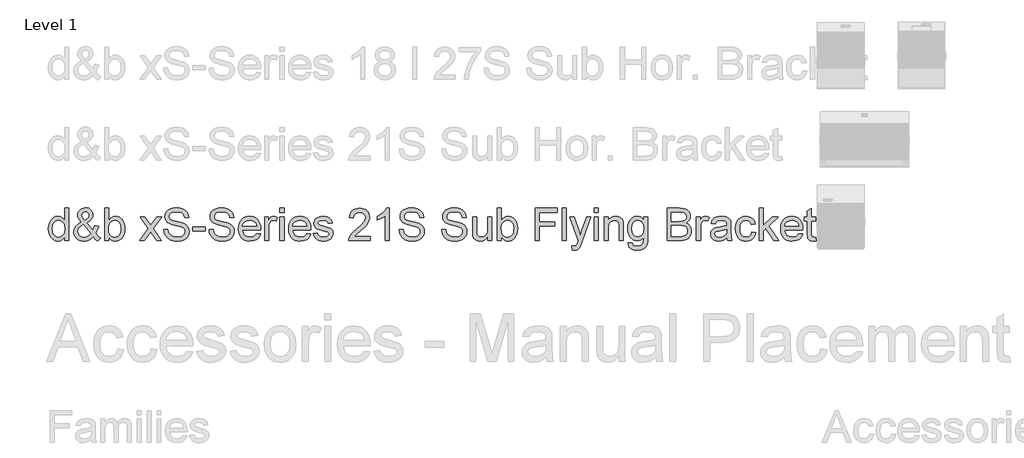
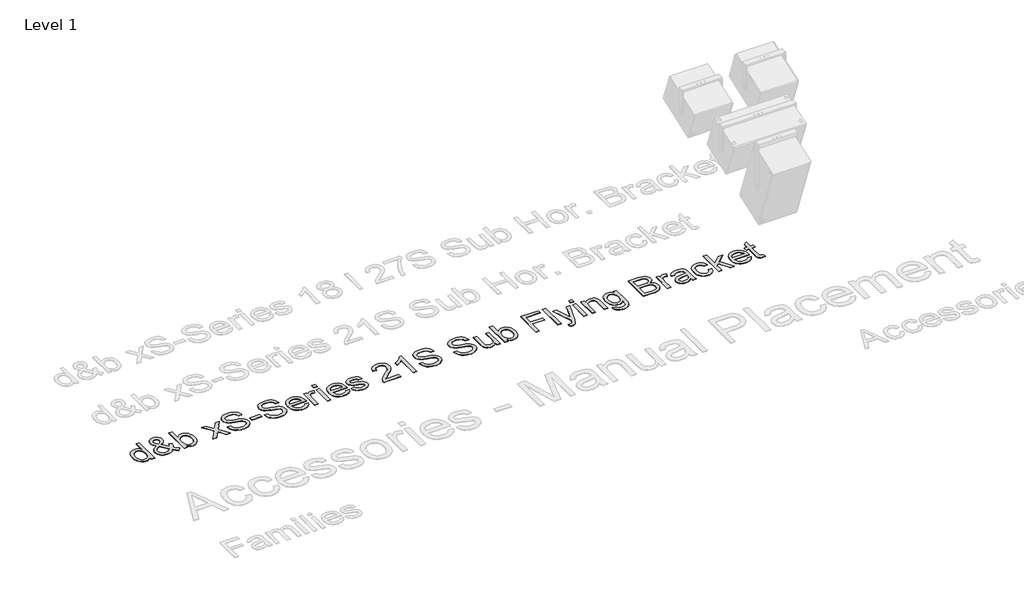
# One storey, part 13 of 55: 1 proxy.
"""IFC4 building model written with IfcOpenShell, lengths in millimetres."""

from ifc_helpers import new_model, si_unit, origin, origin_with_axes, place, context, project, spatial, polyline, outline, extrude, element, save

model = new_model("IFC4")

# Units and contexts
model_context = context("Model", 3, world=origin())
ifc_project = project(units=[si_unit("LENGTHUNIT", "METRE", prefix="MILLI")], contexts=[model_context])

# Site, building, storey
site = spatial("IfcSite", under=ifc_project)
building = spatial("IfcBuilding", under=site)
storey = spatial("IfcBuildingStorey", under=building, Name="Level 1", Elevation=0.0)

# Proxy
placement = place(None, origin())
element("IfcBuildingElementProxy", 1, Name="400mm Arial", ObjectType="400mm Arial", at=placement, inside=storey, context=model_context, shape_type="SweptSolid", body=[
    extrude(outline(polyline([(-20879.8211974, -23648.6945164), (-20879.8211974, -23601.3113154), (-20894.8491769, -23624.7883181), (-20913.0532043, -23641.5576057), (-20934.4332796, -23651.6191783), (-20958.9894028, -23654.9730358), (-20991.4611202, -23650.1169935), (-21021.1859854, -23635.5488665), (-21046.3491139, -23612.2864616), (-21065.1356211, -23581.3475858), (-21076.8342686, -23543.9830379), (-21080.7338177, -23501.4436165), (-21077.1408369, -23459.4314926), (-21066.3618945, -23421.4905962), (-21048.4092531, -23389.7791682), (-21023.2951755, -23366.4554497), (-20992.9203855, -23352.1080519), (-20959.1856065, -23347.325586), (-20934.6110892, -23350.7468885), (-20912.8815261, -23361.0107962), (-20894.4629008, -23376.7438829), (-20879.8211974, -23396.5727224), (-20879.8211974, -23246.8692758), (-20829.5930424, -23246.8692758), (-20829.5930424, -23648.6945164), (-20879.8211974, -23648.6945164)]), holes=[polyline([(-21030.5056627, -23501.2474128), (-21029.089317, -23525.6042665), (-21024.8402799, -23546.6808392), (-21017.7585515, -23564.4771307), (-21007.8441318, -23578.9931411), (-20983.1469871, -23598.3069458), (-20969.2717046, -23603.135397), (-20954.3786151, -23604.7448807), (-20939.415015, -23603.2089734), (-20925.6225058, -23598.6012514), (-20901.5507606, -23580.1703635), (-20892.0440767, -23566.2613584), (-20885.2535882, -23549.1088603), (-20879.8211974, -23505.0733855), (-20885.3516901, -23456.9298951), (-20892.2648059, -23438.3947739), (-20901.9431681, -23423.5507354), (-20913.6448812, -23412.1770504), (-20926.6280499, -23404.0529896), (-20940.8926743, -23399.1785532), (-20956.4387543, -23397.5537411), (-20971.6261493, -23399.1141738), (-20985.5014319, -23403.7954722), (-20998.064602, -23411.5976362), (-21009.3156597, -23422.5206658), (-21018.586286, -23436.8036843), (-21025.2081619, -23454.6858149), (-21030.5056627, -23501.2474128)])]), origin_with_axes(), (0.0, 0.0, 1.0), 5.0),
    extrude(outline(polyline([(-20523.809528, -23599.0549725), (-20549.3405384, -23623.5191252), (-20577.0788409, -23640.99352), (-20607.0734862, -23651.4781569), (-20639.3735254, -23654.9730358), (-20668.6814577, -23652.3855991), (-20694.8010793, -23644.623289), (-20717.7323904, -23631.6861055), (-20737.4753908, -23613.5740486), (-20750.308341, -23596.2038871), (-20759.4747341, -23577.8404442), (-20764.9745699, -23558.4837198), (-20766.8078485, -23538.1337141), (-20760.9094739, -23502.9396699), (-20743.2143499, -23471.3263438), (-20713.796053, -23443.3182613), (-20672.7281596, -23418.9399477), (-20694.6416638, -23390.5885086), (-20707.7995765, -23368.1231814), (-20714.3846642, -23348.9442668), (-20716.5796934, -23330.4520651), (-20714.8506481, -23312.8979626), (-20709.6635119, -23296.5333452), (-20701.018285, -23281.3582129), (-20688.9149674, -23267.3725657), (-20674.1935562, -23255.6555241), (-20657.6940487, -23247.2862088), (-20639.4164449, -23242.2646195), (-20619.3607448, -23240.5907564), (-20600.212487, -23242.1910431), (-20582.8913764, -23246.9919032), (-20567.397413, -23254.9933366), (-20553.7305969, -23266.1953433), (-20542.5715097, -23279.6414302), (-20534.6007332, -23294.3751041), (-20529.8182672, -23310.396365), (-20528.2241119, -23327.7052129), (-20532.9452642, -23355.68877), (-20547.108721, -23381.563137), (-20570.7144823, -23405.3283139), (-20603.7625482, -23426.9843007), (-20531.069066, -23517.5323224), (-20518.6837055, -23491.6579554), (-20509.3885538, -23461.9085647), (-20459.1603987, -23472.7978718), (-20474.6114425, -23519.3226815), (-20494.6732739, -23555.4977443), (-20466.1256311, -23588.8033276), (-20434.0463211, -23616.3209009), (-20471.7174374, -23654.9730358), (-20497.3465498, -23631.52669), (-20523.809528, -23599.0549725)]), holes=[polyline([(-20557.4584678, -23562.8553842), (-20647.1235727, -23450.9211558), (-20681.3733865, -23472.7733463), (-20702.305872, -23493.0068561), (-20713.0112381, -23512.3329235), (-20716.5796934, -23531.4627873), (-20711.6991256, -23555.1543878), (-20697.0574222, -23579.7289051), (-20686.2784798, -23590.6733944), (-20673.4639236, -23598.4908868), (-20658.6137537, -23603.1813823), (-20641.7279702, -23604.7448807), (-20619.0051256, -23601.8263502), (-20595.5710425, -23593.0707588), (-20574.1480476, -23579.6798541), (-20557.4584678, -23562.8553842)]), polyline([(-20629.1709314, -23395.2973981), (-20602.9041569, -23378.6323438), (-20587.8700461, -23364.1500559), (-20580.8067117, -23350.0601755), (-20578.452267, -23334.5723435), (-20581.5547385, -23317.0243723), (-20590.862153, -23303.0325938), (-20604.829406, -23293.8723321), (-20621.9113933, -23290.8189115), (-20639.3612626, -23293.8478066), (-20653.6473468, -23302.9344919), (-20663.1754905, -23316.3867102), (-20666.3515384, -23332.5122043), (-20662.0350563, -23350.9063041), (-20648.9875082, -23371.360543), (-20629.1709314, -23395.2973981)])]), origin_with_axes(), (0.0, 0.0, 1.0), 5.0),
    extrude(outline(polyline([(-20333.590011, -23648.6945164), (-20383.8181661, -23648.6945164), (-20383.8181661, -23246.8692758), (-20333.590011, -23246.8692758), (-20333.590011, -23395.8860093), (-20317.0721094, -23374.6408241), (-20298.4204923, -23359.4656918), (-20277.6351595, -23350.3606124), (-20254.7161112, -23347.325586), (-20228.8417442, -23350.0601755), (-20204.3898543, -23358.263944), (-20182.758393, -23371.4218567), (-20165.3453119, -23389.0188788), (-20151.6968898, -23410.883332), (-20141.3594058, -23436.8435381), (-20134.8478945, -23465.8203766), (-20132.6773907, -23496.734727), (-20134.9245365, -23532.4070178), (-20141.6659741, -23563.7873519), (-20152.9017034, -23590.8757295), (-20168.6317244, -23613.6721505), (-20187.5132678, -23631.7412878), (-20208.2035643, -23644.6478145), (-20230.702614, -23652.3917305), (-20255.0104168, -23654.9730358), (-20278.6836232, -23651.6437038), (-20299.671291, -23641.6557076), (-20317.9734203, -23625.0090473), (-20333.590011, -23601.7037229), (-20333.590011, -23648.6945164)]), holes=[polyline([(-20333.590011, -23499.0891717), (-20330.1564457, -23540.9786682), (-20319.8557498, -23569.3301073), (-20307.6849872, -23584.8240707), (-20293.5399244, -23595.8911874), (-20277.4205617, -23602.5314574), (-20259.3268989, -23604.7448807), (-20244.3050508, -23603.1139372), (-20230.3377977, -23598.2211067), (-20217.4251396, -23590.0663891), (-20205.5670767, -23578.6497845), (-20195.6526569, -23564.0019498), (-20188.5709285, -23546.1535416), (-20184.3218914, -23525.1045601), (-20182.9055458, -23500.8550053), (-20188.3379366, -23454.8942814), (-20195.1284251, -23437.1010555), (-20204.6351089, -23422.7659205), (-20216.0670419, -23411.735592), (-20228.6332778, -23403.8567859), (-20242.3338164, -23399.1295023), (-20257.1686579, -23397.5537411), (-20272.190506, -23399.1846846), (-20286.1577591, -23404.0775151), (-20299.0704171, -23412.2322327), (-20310.9284801, -23423.6488372), (-20320.8428999, -23438.1495192), (-20327.9246283, -23455.556469), (-20332.1736653, -23475.8696865), (-20333.590011, -23499.0891717)])]), origin_with_axes(), (0.0, 0.0, 1.0), 5.0),
    extrude(outline(polyline([(-19950.6003285, -23648.6945164), (-19843.2768878, -23500.2663941), (-19944.3218092, -23353.6041054), (-19884.0872638, -23353.6041054), (-19835.3306367, -23424.3355503), (-19812.4729021, -23457.5920827), (-19792.6563253, -23430.3197641), (-19737.1306695, -23353.6041054), (-19676.6999204, -23353.6041054), (-19782.8461387, -23500.364496), (-19680.623995, -23648.6945164), (-19740.9566422, -23648.6945164), (-19802.5646137, -23559.4218189), (-19813.7482263, -23543.0388074), (-19890.1695795, -23648.6945164), (-19950.6003285, -23648.6945164)])), origin_with_axes(), (0.0, 0.0, 1.0), 5.0),
    extrude(outline(polyline([(-19649.2313981, -23510.56709), (-19599.003243, -23510.56709), (-19593.2397584, -23538.4402825), (-19582.8164352, -23560.844296), (-19566.556051, -23578.6252591), (-19543.2813835, -23592.6293004), (-19514.8318425, -23601.7159856), (-19483.0468381, -23604.7448807), (-19455.063281, -23602.4517496), (-19430.5623402, -23595.5723563), (-19410.7089752, -23584.6830493), (-19396.6681457, -23570.3601769), (-19388.3172244, -23553.9158517), (-19385.533584, -23536.6621862), (-19387.6182486, -23519.849979), (-19393.8722425, -23505.3186402), (-19406.5764341, -23492.9210169), (-19428.0116917, -23482.5099565), (-19501.1466323, -23463.3310418), (-19549.1552327, -23450.639113), (-19579.8733793, -23438.5603208), (-19604.8770922, -23421.6622745), (-19622.5967416, -23401.1835101), (-19633.1549549, -23377.565486), (-19636.6743593, -23351.2496606), (-19632.3210891, -23321.8313637), (-19619.2612782, -23294.3996296), (-19597.8382834, -23271.1494875), (-19568.395461, -23254.2759667), (-19533.054264, -23244.012059), (-19493.9361452, -23240.5907564), (-19451.5561394, -23244.1714745), (-19414.4736342, -23254.9136288), (-19384.013005, -23272.59649), (-19361.4986269, -23296.999329), (-19347.249331, -23326.6015669), (-19341.5839483, -23359.8826247), (-19391.8121033, -23359.8826247), (-19401.0336787, -23329.9125049), (-19409.3968627, -23318.0544419), (-19420.2616443, -23308.2810436), (-19450.3053406, -23295.1844445), (-19491.9741079, -23290.8189115), (-19534.6238939, -23295.1353936), (-19550.9271976, -23300.5309962), (-19563.8827752, -23308.0848398), (-19580.805347, -23327.1411272), (-19586.4462043, -23349.7781326), (-19582.4485532, -23369.0796746), (-19570.4556002, -23384.6042948), (-19542.1041611, -23398.4857088), (-19488.4424407, -23412.6614283), (-19433.0639377, -23426.1259093), (-19399.5621507, -23437.8736077), (-19370.9286687, -23456.0960292), (-19350.9526764, -23478.5858819), (-19339.2172408, -23505.097911), (-19335.3054289, -23535.3868619), (-19339.805852, -23566.3502632), (-19353.3071212, -23595.4742545), (-19375.2574136, -23620.5392811), (-19405.1049061, -23639.3257883), (-19440.9979261, -23651.0612239), (-19481.0848008, -23654.9730358), (-19530.2951491, -23650.7546556), (-19570.7989567, -23638.099515), (-19603.0622077, -23616.958563), (-19627.5508858, -23587.2827487), (-19643.2717098, -23551.1322113), (-19649.2313981, -23510.56709)])), origin_with_axes(), (0.0, 0.0, 1.0), 5.0),
    extrude(outline(polyline([(-19291.3557932, -23529.4026481), (-19291.3557932, -23479.174493), (-19134.3928086, -23479.174493), (-19134.3928086, -23529.4026481), (-19291.3557932, -23529.4026481)])), origin_with_axes(), (0.0, 0.0, 1.0), 5.0),
    extrude(outline(polyline([(-19090.4431729, -23510.56709), (-19040.2150178, -23510.56709), (-19034.4515332, -23538.4402825), (-19024.02821, -23560.844296), (-19007.7678258, -23578.6252591), (-18984.4931583, -23592.6293004), (-18956.0436173, -23601.7159856), (-18924.2586129, -23604.7448807), (-18896.2750558, -23602.4517496), (-18871.774115, -23595.5723563), (-18851.9207499, -23584.6830493), (-18837.8799205, -23570.3601769), (-18829.5289992, -23553.9158517), (-18826.7453587, -23536.6621862), (-18828.8300234, -23519.849979), (-18835.0840173, -23505.3186402), (-18847.7882089, -23492.9210169), (-18869.2234665, -23482.5099565), (-18942.3584071, -23463.3310418), (-18990.3670075, -23450.639113), (-19021.0851541, -23438.5603208), (-19046.088867, -23421.6622745), (-19063.8085164, -23401.1835101), (-19074.3667297, -23377.565486), (-19077.8861341, -23351.2496606), (-19073.5328638, -23321.8313637), (-19060.473053, -23294.3996296), (-19039.0500582, -23271.1494875), (-19009.6072358, -23254.2759667), (-18974.2660388, -23244.012059), (-18935.14792, -23240.5907564), (-18892.7679141, -23244.1714745), (-18855.685409, -23254.9136288), (-18825.2247798, -23272.59649), (-18802.7104017, -23296.999329), (-18788.4611058, -23326.6015669), (-18782.7957231, -23359.8826247), (-18833.0238781, -23359.8826247), (-18842.2454535, -23329.9125049), (-18850.6086375, -23318.0544419), (-18861.4734191, -23308.2810436), (-18891.5171154, -23295.1844445), (-18933.1858827, -23290.8189115), (-18975.8356687, -23295.1353936), (-18992.1389724, -23300.5309962), (-19005.09455, -23308.0848398), (-19022.0171218, -23327.1411272), (-19027.657979, -23349.7781326), (-19023.660328, -23369.0796746), (-19011.667375, -23384.6042948), (-18983.3159359, -23398.4857088), (-18929.6542155, -23412.6614283), (-18874.2757125, -23426.1259093), (-18840.7739255, -23437.8736077), (-18812.1404435, -23456.0960292), (-18792.1644512, -23478.5858819), (-18780.4290156, -23505.097911), (-18776.5172037, -23535.3868619), (-18781.0176267, -23566.3502632), (-18794.518896, -23595.4742545), (-18816.4691883, -23620.5392811), (-18846.3166809, -23639.3257883), (-18882.2097009, -23651.0612239), (-18922.2965756, -23654.9730358), (-18971.5069238, -23650.7546556), (-19012.0107315, -23638.099515), (-19044.2739825, -23616.958563), (-19068.7626606, -23587.2827487), (-19084.4834846, -23551.1322113), (-19090.4431729, -23510.56709)])), origin_with_axes(), (0.0, 0.0, 1.0), 5.0),
    extrude(outline(polyline([(-18500.850962, -23560.795245), (-18451.6038255, -23567.0737644), (-18459.1546035, -23586.7983707), (-18469.3480004, -23604.180795), (-18482.1840164, -23619.2210372), (-18497.6626513, -23631.9190974), (-18515.6244897, -23642.0051955), (-18535.9101161, -23649.2095512), (-18583.4527326, -23654.9730358), (-18614.618469, -23652.4867667), (-18642.3874282, -23645.0279592), (-18666.7596104, -23632.5966135), (-18687.7350155, -23615.1927294), (-18704.602405, -23593.300685), (-18716.6505403, -23567.4048582), (-18723.8794215, -23537.5052491), (-18726.2890486, -23503.6018575), (-18723.8548961, -23468.5488348), (-18716.5524385, -23437.6528785), (-18704.3816758, -23410.9139888), (-18687.342608, -23388.3321657), (-18666.4223852, -23370.3917871), (-18642.6081574, -23357.5772309), (-18615.8999246, -23349.8884972), (-18586.2976867, -23347.325586), (-18557.6488763, -23349.8823658), (-18531.7407868, -23357.5527054), (-18508.5734182, -23370.3366048), (-18488.1467704, -23388.2340638), (-18471.472519, -23410.766836), (-18459.5623394, -23437.4566748), (-18452.4162316, -23468.3035801), (-18450.0341957, -23503.3075519), (-18450.3285013, -23516.8456094), (-18676.0608935, -23516.8456094), (-18673.1515601, -23536.8890467), (-18667.3666157, -23554.4431493), (-18658.7060604, -23569.507917), (-18647.1698942, -23582.0833498), (-18633.3957791, -23591.9977696), (-18618.0213774, -23599.079498), (-18582.4717139, -23604.7448807), (-18555.7389556, -23602.1206558), (-18533.2245775, -23594.2479811), (-18514.9285796, -23580.6363473), (-18500.850962, -23560.795245)]), holes=[polyline([(-18676.0608935, -23466.6174543), (-18500.2623508, -23466.6174543), (-18507.0559049, -23440.0808997), (-18520.3732332, -23421.0981887), (-18534.0707061, -23410.7974929), (-18549.65664, -23403.439853), (-18567.1310348, -23399.025269), (-18586.4938904, -23397.5537411), (-18620.3512967, -23402.2503679), (-18648.3471166, -23416.3402483), (-18667.8080741, -23438.3028034), (-18676.0608935, -23466.6174543)])]), origin_with_axes(), (0.0, 0.0, 1.0), 5.0),
    extrude(outline(polyline([(-18399.8060406, -23648.6945164), (-18399.8060406, -23353.6041054), (-18355.8564049, -23353.6041054), (-18355.8564049, -23397.2594355), (-18339.6205462, -23371.9491542), (-18324.6600117, -23357.0376707), (-18309.6504263, -23349.7536071), (-18293.2674148, -23347.325586), (-18268.2514391, -23351.2006097), (-18242.843056, -23362.8256807), (-18259.618475, -23407.8544369), (-18277.2768108, -23400.128915), (-18294.9351465, -23397.5537411), (-18309.9324692, -23400.0308132), (-18323.3356365, -23407.4620295), (-18334.1636299, -23419.2833042), (-18341.4354307, -23434.9305518), (-18347.5422718, -23462.9876853), (-18349.5778855, -23493.5954673), (-18349.5778855, -23648.6945164), (-18399.8060406, -23648.6945164)])), origin_with_axes(), (0.0, 0.0, 1.0), 5.0),
    extrude(outline(polyline([(-18211.4504591, -23297.0974309), (-18211.4504591, -23246.8692758), (-18161.222304, -23246.8692758), (-18161.222304, -23297.0974309), (-18211.4504591, -23297.0974309)])), origin_with_axes(), (0.0, 0.0, 1.0), 5.0),
    extrude(outline(polyline([(-18211.4504591, -23648.6945164), (-18211.4504591, -23353.6041054), (-18161.222304, -23353.6041054), (-18161.222304, -23648.6945164), (-18211.4504591, -23648.6945164)])), origin_with_axes(), (0.0, 0.0, 1.0), 5.0),
    extrude(outline(polyline([(-17879.2775429, -23560.795245), (-17830.0304065, -23567.0737644), (-17837.5811844, -23586.7983707), (-17847.7745814, -23604.180795), (-17860.6105973, -23619.2210372), (-17876.0892323, -23631.9190974), (-17894.0510707, -23642.0051955), (-17914.336697, -23649.2095512), (-17961.8793136, -23654.9730358), (-17993.0450499, -23652.4867667), (-18020.8140092, -23645.0279592), (-18045.1861914, -23632.5966135), (-18066.1615965, -23615.1927294), (-18083.0289859, -23593.300685), (-18095.0771213, -23567.4048582), (-18102.3060025, -23537.5052491), (-18104.7156295, -23503.6018575), (-18102.281477, -23468.5488348), (-18094.9790194, -23437.6528785), (-18082.8082567, -23410.9139888), (-18065.769189, -23388.3321657), (-18044.8489662, -23370.3917871), (-18021.0347384, -23357.5772309), (-17994.3265055, -23349.8884972), (-17964.7242676, -23347.325586), (-17936.0754573, -23349.8823658), (-17910.1673678, -23357.5527054), (-17886.9999991, -23370.3366048), (-17866.5733513, -23388.2340638), (-17849.8990999, -23410.766836), (-17837.9889203, -23437.4566748), (-17830.8428126, -23468.3035801), (-17828.4607766, -23503.3075519), (-17828.7550822, -23516.8456094), (-18054.4874745, -23516.8456094), (-18051.578141, -23536.8890467), (-18045.7931967, -23554.4431493), (-18037.1326413, -23569.507917), (-18025.5964751, -23582.0833498), (-18011.8223601, -23591.9977696), (-17996.4479584, -23599.079498), (-17960.8982949, -23604.7448807), (-17934.1655366, -23602.1206558), (-17911.6511585, -23594.2479811), (-17893.3551606, -23580.6363473), (-17879.2775429, -23560.795245)]), holes=[polyline([(-18054.4874745, -23466.6174543), (-17878.6889317, -23466.6174543), (-17885.4824859, -23440.0808997), (-17898.7998141, -23421.0981887), (-17912.4972871, -23410.7974929), (-17928.0832209, -23403.439853), (-17945.5576157, -23399.025269), (-17964.9204714, -23397.5537411), (-17998.7778777, -23402.2503679), (-18026.7736975, -23416.3402483), (-18046.234655, -23438.3028034), (-18054.4874745, -23466.6174543)])]), origin_with_axes(), (0.0, 0.0, 1.0), 5.0),
    extrude(outline(polyline([(-17797.0681797, -23560.795245), (-17746.8400246, -23554.5167257), (-17738.918299, -23576.0010342), (-17723.5898825, -23591.7954345), (-17700.7566734, -23601.5075192), (-17670.3205696, -23604.7448807), (-17640.2523479, -23601.7772993), (-17619.1113959, -23592.874555), (-17606.6034081, -23579.9741597), (-17602.4340788, -23565.0136253), (-17606.6279335, -23552.2113318), (-17619.2094978, -23542.4501962), (-17670.9091808, -23528.1273239), (-17746.545719, -23503.5528066), (-17765.6878455, -23491.2042343), (-17779.5569967, -23474.858011), (-17787.9814944, -23455.556469), (-17790.7896603, -23434.3419406), (-17788.5333174, -23414.880983), (-17781.7642887, -23396.9160789), (-17771.0957109, -23381.1584668), (-17757.1407205, -23368.3193852), (-17725.2085633, -23353.4569526), (-17704.3251287, -23348.8584276), (-17681.9946916, -23347.325586), (-17649.302245, -23349.7903953), (-17620.8772295, -23357.1848234), (-17598.0194949, -23368.785369), (-17582.0288908, -23383.8685308), (-17571.4338893, -23403.5502176), (-17564.7629625, -23428.946338), (-17614.9911176, -23435.2248574), (-17621.3309506, -23419.4181943), (-17633.8757267, -23407.5110804), (-17652.748073, -23400.0430759), (-17678.070617, -23397.5537411), (-17706.9125654, -23399.9327113), (-17726.140531, -23407.069622), (-17736.9562617, -23417.3703179), (-17740.5615053, -23429.2406436), (-17734.5772915, -23443.8578215), (-17715.8398352, -23454.9433323), (-17672.5769125, -23465.6364356), (-17598.8533607, -23489.2789852), (-17579.3801404, -23500.5852252), (-17564.6158097, -23516.0607944), (-17555.3083952, -23535.7547439), (-17552.2059237, -23559.7161245), (-17555.8479555, -23584.4868455), (-17566.7740507, -23607.7860386), (-17584.5672766, -23627.7865564), (-17608.8107, -23642.6612517), (-17638.0941069, -23651.8950898), (-17671.0072827, -23654.9730358), (-17698.040478, -23653.4892451), (-17721.6523707, -23649.037873), (-17741.8429609, -23641.6189194), (-17758.6122485, -23631.2323844), (-17772.3097214, -23617.9273189), (-17783.2848676, -23601.7527738), (-17791.5376871, -23582.7087492), (-17797.0681797, -23560.795245)])), origin_with_axes(), (0.0, 0.0, 1.0), 5.0),
    extrude(outline(polyline([(-17093.8740087, -23598.4663614), (-17093.8740087, -23648.6945164), (-17357.5718228, -23648.6945164), (-17356.4681768, -23631.0116552), (-17352.1762202, -23614.0645579), (-17339.778597, -23587.0007058), (-17321.6174891, -23560.7461941), (-17295.3629774, -23533.2654091), (-17258.6851425, -23502.522737), (-17204.4961246, -23454.3792466), (-17172.0121444, -23418.8418458), (-17155.7885485, -23389.9998974), (-17150.3806831, -23361.9427639), (-17155.4942429, -23336.7918982), (-17170.8349221, -23315.8839381), (-17194.4161579, -23301.7940577), (-17224.2513878, -23297.0974309), (-17255.582671, -23301.6836931), (-17279.9241964, -23315.4424797), (-17295.6327576, -23337.2946702), (-17301.0651483, -23366.1611441), (-17351.2933034, -23359.8826247), (-17346.9737557, -23333.9530755), (-17339.1164094, -23311.2976759), (-17327.7212646, -23291.9164261), (-17312.7883213, -23275.8093261), (-17294.6609359, -23263.1480541), (-17273.6824652, -23254.1042884), (-17249.8529089, -23248.678029), (-17223.1722672, -23246.8692758), (-17196.2525022, -23248.8803641), (-17172.2941873, -23254.9136288), (-17151.2973224, -23264.96907), (-17133.2619076, -23279.0466877), (-17118.7765541, -23296.1041495), (-17108.4298729, -23315.0991232), (-17102.2218643, -23336.0316087), (-17100.152528, -23358.9016061), (-17102.3843455, -23382.9243004), (-17109.0797978, -23406.5300617), (-17120.9623862, -23430.5404933), (-17138.7556121, -23455.7771982), (-17167.1193139, -23485.9067336), (-17210.7133303, -23524.5956567), (-17268.495329, -23572.9108254), (-17291.1568599, -23598.4663614), (-17093.8740087, -23598.4663614)])), origin_with_axes(), (0.0, 0.0, 1.0), 5.0),
    extrude(outline(polyline([(-16855.2902721, -23648.6945164), (-16905.5184271, -23648.6945164), (-16905.5184271, -23335.5533621), (-16926.4877009, -23352.5127221), (-16953.0978318, -23369.4475566), (-17005.9747373, -23394.8068888), (-17005.9747373, -23347.325586), (-16966.5255247, -23325.8658029), (-16932.3492873, -23300.3347925), (-16905.4080625, -23273.1851012), (-16887.6638876, -23246.8692758), (-16855.2902721, -23246.8692758), (-16855.2902721, -23648.6945164)])), origin_with_axes(), (0.0, 0.0, 1.0), 5.0),
    extrude(outline(polyline([(-16735.9984038, -23510.56709), (-16685.7702487, -23510.56709), (-16680.0067641, -23538.4402825), (-16669.5834409, -23560.844296), (-16653.3230567, -23578.6252591), (-16630.0483891, -23592.6293004), (-16601.5988482, -23601.7159856), (-16569.8138438, -23604.7448807), (-16541.8302867, -23602.4517496), (-16517.3293458, -23595.5723563), (-16497.4759808, -23584.6830493), (-16483.4351513, -23570.3601769), (-16475.08423, -23553.9158517), (-16472.3005896, -23536.6621862), (-16474.3852543, -23519.849979), (-16480.6392482, -23505.3186402), (-16493.3434397, -23492.9210169), (-16514.7786973, -23482.5099565), (-16587.913638, -23463.3310418), (-16635.9222383, -23450.639113), (-16666.6403849, -23438.5603208), (-16691.6440979, -23421.6622745), (-16709.3637473, -23401.1835101), (-16719.9219606, -23377.565486), (-16723.441365, -23351.2496606), (-16719.0880947, -23321.8313637), (-16706.0282839, -23294.3996296), (-16684.605289, -23271.1494875), (-16655.1624667, -23254.2759667), (-16619.8212697, -23244.012059), (-16580.7031509, -23240.5907564), (-16538.323145, -23244.1714745), (-16501.2406399, -23254.9136288), (-16470.7800107, -23272.59649), (-16448.2656326, -23296.999329), (-16434.0163367, -23326.6015669), (-16428.3509539, -23359.8826247), (-16478.579109, -23359.8826247), (-16487.8006843, -23329.9125049), (-16496.1638684, -23318.0544419), (-16507.02865, -23308.2810436), (-16537.0723462, -23295.1844445), (-16578.7411136, -23290.8189115), (-16621.3908995, -23295.1353936), (-16637.6942033, -23300.5309962), (-16650.6497809, -23308.0848398), (-16667.5723527, -23327.1411272), (-16673.2132099, -23349.7781326), (-16669.2155589, -23369.0796746), (-16657.2226059, -23384.6042948), (-16628.8711668, -23398.4857088), (-16575.2094464, -23412.6614283), (-16519.8309434, -23426.1259093), (-16486.3291564, -23437.8736077), (-16457.6956744, -23456.0960292), (-16437.7196821, -23478.5858819), (-16425.9842464, -23505.097911), (-16422.0724345, -23535.3868619), (-16426.5728576, -23566.3502632), (-16440.0741268, -23595.4742545), (-16462.0244192, -23620.5392811), (-16491.8719118, -23639.3257883), (-16527.7649318, -23651.0612239), (-16567.8518065, -23654.9730358), (-16617.0621547, -23650.7546556), (-16657.5659624, -23638.099515), (-16689.8292134, -23616.958563), (-16714.3178915, -23587.2827487), (-16730.0387154, -23551.1322113), (-16735.9984038, -23510.56709)])), origin_with_axes(), (0.0, 0.0, 1.0), 5.0),
    extrude(outline(polyline([(-16208.6027755, -23510.56709), (-16158.3746204, -23510.56709), (-16152.6111358, -23538.4402825), (-16142.1878126, -23560.844296), (-16125.9274284, -23578.6252591), (-16102.6527609, -23592.6293004), (-16074.2032199, -23601.7159856), (-16042.4182155, -23604.7448807), (-16014.4346584, -23602.4517496), (-15989.9337175, -23595.5723563), (-15970.0803525, -23584.6830493), (-15956.0395231, -23570.3601769), (-15947.6886018, -23553.9158517), (-15944.9049613, -23536.6621862), (-15946.989626, -23519.849979), (-15953.2436199, -23505.3186402), (-15965.9478115, -23492.9210169), (-15987.383069, -23482.5099565), (-16060.5180097, -23463.3310418), (-16108.5266101, -23450.639113), (-16139.2447566, -23438.5603208), (-16164.2484696, -23421.6622745), (-16181.968119, -23401.1835101), (-16192.5263323, -23377.565486), (-16196.0457367, -23351.2496606), (-16191.6924664, -23321.8313637), (-16178.6326556, -23294.3996296), (-16157.2096607, -23271.1494875), (-16127.7668384, -23254.2759667), (-16092.4256414, -23244.012059), (-16053.3075226, -23240.5907564), (-16010.9275167, -23244.1714745), (-15973.8450116, -23254.9136288), (-15943.3843824, -23272.59649), (-15920.8700043, -23296.999329), (-15906.6207084, -23326.6015669), (-15900.9553256, -23359.8826247), (-15951.1834807, -23359.8826247), (-15960.4050561, -23329.9125049), (-15968.7682401, -23318.0544419), (-15979.6330217, -23308.2810436), (-16009.6767179, -23295.1844445), (-16051.3454853, -23290.8189115), (-16093.9952712, -23295.1353936), (-16110.298575, -23300.5309962), (-16123.2541526, -23308.0848398), (-16140.1767244, -23327.1411272), (-16145.8175816, -23349.7781326), (-16141.8199306, -23369.0796746), (-16129.8269776, -23384.6042948), (-16101.4755385, -23398.4857088), (-16047.8138181, -23412.6614283), (-15992.4353151, -23426.1259093), (-15958.9335281, -23437.8736077), (-15930.3000461, -23456.0960292), (-15910.3240538, -23478.5858819), (-15898.5886181, -23505.097911), (-15894.6768063, -23535.3868619), (-15899.1772293, -23566.3502632), (-15912.6784986, -23595.4742545), (-15934.6287909, -23620.5392811), (-15964.4762835, -23639.3257883), (-16000.3693035, -23651.0612239), (-16040.4561782, -23654.9730358), (-16089.6665264, -23650.7546556), (-16130.1703341, -23638.099515), (-16162.4335851, -23616.958563), (-16186.9222632, -23587.2827487), (-16202.6430872, -23551.1322113), (-16208.6027755, -23510.56709)])), origin_with_axes(), (0.0, 0.0, 1.0), 5.0),
    extrude(outline(polyline([(-15637.2575115, -23648.6945164), (-15637.2575115, -23597.975852), (-15655.4308821, -23622.9121199), (-15676.5963595, -23640.7237399), (-15700.7539439, -23651.4107118), (-15727.9036351, -23654.9730358), (-15752.3677878, -23652.4714382), (-15775.1396833, -23644.9666455), (-15794.2450216, -23633.684931), (-15807.7095026, -23619.852568), (-15816.7716624, -23603.0526236), (-15822.6700371, -23582.8681648), (-15825.613093, -23536.1716768), (-15825.613093, -23353.6041054), (-15775.384938, -23353.6041054), (-15775.384938, -23512.5291273), (-15772.3437801, -23563.738301), (-15765.0229284, -23580.8202883), (-15752.4781524, -23593.8065227), (-15735.5433179, -23602.0102912), (-15715.0522907, -23604.7448807), (-15693.3840412, -23601.9489776), (-15673.1137433, -23593.5612681), (-15656.399638, -23580.3543045), (-15645.3999663, -23563.1006389), (-15639.2931252, -23539.4703521), (-15637.2575115, -23507.1335247), (-15637.2575115, -23353.6041054), (-15587.0293564, -23353.6041054), (-15587.0293564, -23648.6945164), (-15637.2575115, -23648.6945164)])), origin_with_axes(), (0.0, 0.0, 1.0), 5.0),
    extrude(outline(polyline([(-15467.7374881, -23648.6945164), (-15517.9656432, -23648.6945164), (-15517.9656432, -23246.8692758), (-15467.7374881, -23246.8692758), (-15467.7374881, -23395.8860093), (-15451.2195865, -23374.6408241), (-15432.5679694, -23359.4656918), (-15411.7826367, -23350.3606124), (-15388.8635884, -23347.325586), (-15362.9892214, -23350.0601755), (-15338.5373314, -23358.263944), (-15316.9058701, -23371.4218567), (-15299.492789, -23389.0188788), (-15285.844367, -23410.883332), (-15275.5068829, -23436.8435381), (-15268.9953716, -23465.8203766), (-15266.8248678, -23496.734727), (-15269.0720137, -23532.4070178), (-15275.8134512, -23563.7873519), (-15287.0491805, -23590.8757295), (-15302.7792015, -23613.6721505), (-15321.6607449, -23631.7412878), (-15342.3510414, -23644.6478145), (-15364.8500911, -23652.3917305), (-15389.1578939, -23654.9730358), (-15412.8311003, -23651.6437038), (-15433.8187682, -23641.6557076), (-15452.1208974, -23625.0090473), (-15467.7374881, -23601.7037229), (-15467.7374881, -23648.6945164)]), holes=[polyline([(-15467.7374881, -23499.0891717), (-15464.3039228, -23540.9786682), (-15454.003227, -23569.3301073), (-15441.8324643, -23584.8240707), (-15427.6874016, -23595.8911874), (-15411.5680388, -23602.5314574), (-15393.474376, -23604.7448807), (-15378.4525279, -23603.1139372), (-15364.4852748, -23598.2211067), (-15351.5726168, -23590.0663891), (-15339.7145538, -23578.6497845), (-15329.800134, -23564.0019498), (-15322.7184056, -23546.1535416), (-15318.4693686, -23525.1045601), (-15317.0530229, -23500.8550053), (-15322.4854137, -23454.8942814), (-15329.2759022, -23437.1010555), (-15338.7825861, -23422.7659205), (-15350.2145191, -23411.735592), (-15362.7807549, -23403.8567859), (-15376.4812935, -23399.1295023), (-15391.316135, -23397.5537411), (-15406.3379831, -23399.1846846), (-15420.3052362, -23404.0775151), (-15433.2178942, -23412.2322327), (-15445.0759572, -23423.6488372), (-15454.990377, -23438.1495192), (-15462.0721054, -23455.556469), (-15466.3211424, -23475.8696865), (-15467.7374881, -23499.0891717)])]), origin_with_axes(), (0.0, 0.0, 1.0), 5.0),
    extrude(outline(polyline([(-15047.0766894, -23648.6945164), (-15047.0766894, -23246.8692758), (-14777.1003558, -23246.8692758), (-14777.1003558, -23297.0974309), (-14996.8485343, -23297.0974309), (-14996.8485343, -23416.3892992), (-14808.4929528, -23416.3892992), (-14808.4929528, -23466.6174543), (-14996.8485343, -23466.6174543), (-14996.8485343, -23648.6945164), (-15047.0766894, -23648.6945164)])), origin_with_axes(), (0.0, 0.0, 1.0), 5.0),
    extrude(outline(polyline([(-14714.315162, -23648.6945164), (-14714.315162, -23246.8692758), (-14664.0870069, -23246.8692758), (-14664.0870069, -23648.6945164), (-14714.315162, -23648.6945164)])), origin_with_axes(), (0.0, 0.0, 1.0), 5.0),
    extrude(outline(polyline([(-14588.7447743, -23761.7078653), (-14595.0232937, -23713.3436457), (-14569.5168087, -23717.7582297), (-14556.1013786, -23716.3725408), (-14545.6780554, -23712.2154743), (-14531.0608775, -23696.7644305), (-14517.3266163, -23659.7800272), (-14513.4025417, -23647.6153959), (-14620.1373712, -23353.6041054), (-14567.2604658, -23353.6041054), (-14510.5575876, -23517.5323224), (-14490.8391127, -23583.0643685), (-14471.1206377, -23525.086166), (-14412.9462315, -23353.6041054), (-14360.4617336, -23353.6041054), (-14463.1743866, -23655.7578507), (-14489.858094, -23721.2898968), (-14503.5187788, -23742.2101196), (-14518.994348, -23756.7046702), (-14536.9469894, -23765.1659561), (-14558.0388904, -23767.9863847), (-14588.7447743, -23761.7078653)])), origin_with_axes(), (0.0, 0.0, 1.0), 5.0),
    extrude(outline(polyline([(-14318.7684408, -23648.6945164), (-14318.7684408, -23353.6041054), (-14268.5402857, -23353.6041054), (-14268.5402857, -23648.6945164), (-14318.7684408, -23648.6945164)])), origin_with_axes(), (0.0, 0.0, 1.0), 5.0),
    extrude(outline(polyline([(-14318.7684408, -23297.0974309), (-14318.7684408, -23246.8692758), (-14268.5402857, -23246.8692758), (-14268.5402857, -23297.0974309), (-14318.7684408, -23297.0974309)])), origin_with_axes(), (0.0, 0.0, 1.0), 5.0),
    extrude(outline(polyline([(-14193.1980531, -23648.6945164), (-14193.1980531, -23353.6041054), (-14142.969898, -23353.6041054), (-14142.969898, -23394.8068888), (-14125.5200287, -23374.0338188), (-14104.5630177, -23359.1959117), (-14080.098865, -23350.2931674), (-14052.1275707, -23347.325586), (-14027.3691124, -23349.7168189), (-14004.6953188, -23356.8905179), (-13985.7861842, -23367.9515032), (-13972.3217032, -23382.0045954), (-13963.185967, -23399.0130063), (-13957.2630669, -23418.9399477), (-13954.6143165, -23467.5003711), (-13954.6143165, -23648.6945164), (-14004.8424716, -23648.6945164), (-14004.8424716, -23474.2693998), (-14006.2894741, -23448.2969309), (-14010.6304816, -23429.8292548), (-14018.6380464, -23416.5977657), (-14031.0847206, -23406.333858), (-14047.0385364, -23399.7487703), (-14065.5675262, -23397.5537411), (-14094.9858231, -23402.4833598), (-14120.0631125, -23417.272216), (-14130.0848311, -23429.3448768), (-14137.2432016, -23445.8443843), (-14141.5382239, -23466.7707384), (-14142.969898, -23492.1239393), (-14142.969898, -23648.6945164), (-14193.1980531, -23648.6945164)])), origin_with_axes(), (0.0, 0.0, 1.0), 5.0),
    extrude(outline(polyline([(-13898.107642, -23673.808594), (-13847.879487, -23680.0871133), (-13842.3367316, -23695.7834118), (-13831.5945773, -23706.574617), (-13810.4781508, -23714.9623265), (-13782.8379502, -23717.7582297), (-13753.3583397, -23714.5944445), (-13731.4325727, -23705.103089), (-13716.2267836, -23689.8972999), (-13706.9071064, -23669.5902138), (-13703.4735411, -23611.0234001), (-13720.1876464, -23627.5045135), (-13738.8392636, -23639.2767374), (-13759.4283926, -23646.3400717), (-13781.9550334, -23648.6945164), (-13809.4940664, -23645.9537956), (-13833.7405556, -23637.731633), (-13854.6945009, -23624.0280287), (-13872.3559024, -23604.8429826), (-13886.3691407, -23581.8258324), (-13896.3785967, -23556.6259158), (-13902.3842702, -23529.2432326), (-13904.3861614, -23499.6777829), (-13900.7931806, -23459.1249243), (-13890.0142381, -23421.8339527), (-13872.4294788, -23390.2328893), (-13848.4190472, -23366.7497553), (-13818.8045466, -23352.1816283), (-13784.4075801, -23347.325586), (-13760.9183147, -23350.0724382), (-13739.599553, -23358.3129949), (-13720.4512952, -23372.0472561), (-13703.4735411, -23391.2752217), (-13703.4735411, -23353.6041054), (-13653.245386, -23353.6041054), (-13653.245386, -23608.3746498), (-13656.6789513, -23667.1989808), (-13666.9796472, -23705.9369549), (-13684.7238221, -23731.6273809), (-13710.4878245, -23751.3090676), (-13743.7075687, -23763.8170555), (-13783.8189689, -23767.9863847), (-13808.4272087, -23766.5179224), (-13830.552245, -23762.1125355), (-13850.1940778, -23754.7702241), (-13867.3527072, -23744.490988), (-13881.2126614, -23731.2625646), (-13890.9584686, -23715.0726911), (-13896.5901288, -23695.9213676), (-13898.107642, -23673.808594)]), holes=[polyline([(-13854.1580063, -23496.2442176), (-13848.7991919, -23542.3153062), (-13842.1006739, -23559.9521821), (-13832.7227488, -23573.9899459), (-13821.3214726, -23584.6983777), (-13808.5529017, -23592.3472575), (-13794.417036, -23596.9365854), (-13778.9138756, -23598.4663614), (-13763.5639993, -23596.9457824), (-13749.4955787, -23592.3840457), (-13736.7086137, -23584.7811511), (-13725.2031043, -23574.1370987), (-13715.6964204, -23560.2372907), (-13708.9059319, -23542.8671291), (-13703.4735411, -23497.7157456), (-13709.0653474, -23454.1707801), (-13716.0551054, -23436.9692312), (-13725.8407664, -23422.8149714), (-13737.5945962, -23411.7631831), (-13750.4888601, -23403.8690486), (-13764.5235582, -23399.1325679), (-13779.6986905, -23397.5537411), (-13794.6193711, -23399.1080425), (-13808.3812234, -23403.7709468), (-13832.4284432, -23422.4225639), (-13841.9351271, -23436.3622259), (-13848.7256155, -23453.3123888), (-13854.1580063, -23496.2442176)])]), origin_with_axes(), (0.0, 0.0, 1.0), 5.0),
    extrude(outline(polyline([(-13414.6616494, -23648.6945164), (-13414.6616494, -23246.8692758), (-13261.3284338, -23246.8692758), (-13219.1568945, -23249.8245945), (-13186.2314559, -23258.6905506), (-13160.994751, -23273.6878733), (-13141.8894127, -23295.0372917), (-13129.8596715, -23320.1513693), (-13125.8497578, -23346.4426692), (-13129.2220094, -23370.6370417), (-13139.3387642, -23393.3844118), (-13156.2735988, -23413.2868277), (-13180.1000893, -23428.946338), (-13151.6382856, -23443.8087706), (-13130.6076982, -23466.4212506), (-13117.6214638, -23495.2877244), (-13113.292719, -23528.9121388), (-13116.2480377, -23556.9324841), (-13125.1139938, -23582.9172157), (-13138.3454829, -23605.0146609), (-13154.3974006, -23621.3731469), (-13174.0545619, -23633.2189472), (-13198.1017816, -23641.7783349), (-13227.3238748, -23646.965471), (-13262.5056562, -23648.6945164), (-13414.6616494, -23648.6945164)]), holes=[polyline([(-13364.4334944, -23598.4663614), (-13261.4265357, -23598.4663614), (-13224.1478269, -23596.504324), (-13192.6080771, -23585.5659661), (-13181.032057, -23576.1359242), (-13171.7123798, -23563.2477917), (-13165.5687505, -23547.4779168), (-13163.5208741, -23529.4026481), (-13165.9243698, -23508.4088489), (-13173.1348569, -23490.3581057), (-13185.7286838, -23476.2436998), (-13204.2821991, -23467.0589127), (-13230.5612363, -23462.0189293), (-13266.331629, -23460.3389349), (-13364.4334944, -23460.3389349), (-13364.4334944, -23598.4663614)]), polyline([(-13364.4334944, -23410.1107798), (-13272.7082502, -23410.1107798), (-13219.1446317, -23405.7942977), (-13200.3949127, -23398.3508187), (-13186.918169, -23387.2039943), (-13178.7879769, -23372.5255026), (-13176.0779128, -23354.4870222), (-13178.6040359, -23336.9758392), (-13186.182405, -23321.7209991), (-13198.4696636, -23309.8138852), (-13215.1224553, -23302.3458807), (-13240.6779912, -23298.4095434), (-13279.6734827, -23297.0974309), (-13364.4334944, -23297.0974309), (-13364.4334944, -23410.1107798)])]), origin_with_axes(), (0.0, 0.0, 1.0), 5.0),
    extrude(outline(polyline([(-13050.5075251, -23648.6945164), (-13050.5075251, -23353.6041054), (-13006.5578895, -23353.6041054), (-13006.5578895, -23397.2594355), (-12990.3220307, -23371.9491542), (-12975.3614963, -23357.0376707), (-12960.3519109, -23349.7536071), (-12943.9688993, -23347.325586), (-12918.9529237, -23351.2006097), (-12893.5445405, -23362.8256807), (-12910.3199595, -23407.8544369), (-12927.9782953, -23400.128915), (-12945.6366311, -23397.5537411), (-12960.6339537, -23400.0308132), (-12974.0371211, -23407.4620295), (-12984.8651145, -23419.2833042), (-12992.1369152, -23434.9305518), (-12998.2437564, -23462.9876853), (-13000.2793701, -23493.5954673), (-13000.2793701, -23648.6945164), (-13050.5075251, -23648.6945164)])), origin_with_axes(), (0.0, 0.0, 1.0), 5.0),
    extrude(outline(polyline([(-12673.7963621, -23611.0234001), (-12697.7945309, -23631.6002664), (-12722.5039382, -23645.0647474), (-12748.4886698, -23652.4959637), (-12776.3128114, -23654.9730358), (-12798.676971, -23653.4831137), (-12818.2881471, -23649.0133475), (-12835.1463395, -23641.5637371), (-12849.2515483, -23631.1342825), (-12860.3891757, -23618.3871714), (-12868.3446239, -23603.9845913), (-12873.1178928, -23587.9265422), (-12874.7089824, -23570.2130241), (-12872.3054867, -23549.3909032), (-12865.0949996, -23530.4817686), (-12853.9727006, -23514.2949609), (-12839.8337692, -23501.6398202), (-12823.2177658, -23492.0748883), (-12804.6642505, -23485.1587068), (-12761.2051241, -23477.6048632), (-12709.8487976, -23469.6586121), (-12674.0906677, -23460.3389349), (-12673.7963621, -23449.1553222), (-12677.2544528, -23426.739046), (-12687.6287251, -23412.0728171), (-12710.8298163, -23401.1835101), (-12743.1543809, -23397.5537411), (-12773.0754498, -23399.9694995), (-12793.9711472, -23407.2167748), (-12808.2204431, -23420.6199422), (-12818.2023079, -23441.5033767), (-12868.430463, -23435.2248574), (-12859.7116597, -23407.7563351), (-12846.7008998, -23386.1739247), (-12828.1841727, -23369.6682858), (-12802.9474679, -23357.4300781), (-12772.0821685, -23349.851709), (-12736.6796578, -23347.325586), (-12702.7241496, -23349.5574034), (-12675.8074503, -23356.2528557), (-12655.5126269, -23366.3205597), (-12641.4227465, -23378.669132), (-12632.0785438, -23393.9362348), (-12626.0207536, -23412.7595302), (-12623.568207, -23456.7091659), (-12623.568207, -23519.2000541), (-12621.0175585, -23606.4616634), (-12611.0111682, -23648.6945164), (-12661.2393233, -23648.6945164), (-12669.2836763, -23631.2323844), (-12673.7963621, -23611.0234001)]), holes=[polyline([(-12673.7963621, -23510.56709), (-12707.5434038, -23518.930274), (-12754.8285029, -23525.9690828), (-12798.0423746, -23534.1115377), (-12809.2873009, -23539.6788185), (-12817.6136967, -23547.3552895), (-12822.7640447, -23556.5523394), (-12824.4808273, -23566.681357), (-12820.7406937, -23581.617366), (-12809.5202928, -23593.8555737), (-12791.0648794, -23602.022554), (-12765.6197081, -23604.7448807), (-12738.6416951, -23601.7405111), (-12714.8029418, -23592.7274022), (-12695.4768743, -23579.4468622), (-12682.0369188, -23563.6401991), (-12676.0772305, -23547.3552895), (-12674.0906677, -23524.7918605), (-12673.7963621, -23510.56709)])]), origin_with_axes(), (0.0, 0.0, 1.0), 5.0),
    extrude(outline(polyline([(-12366.1489122, -23541.9596869), (-12315.9207572, -23548.2382063), (-12321.3838048, -23571.9390038), (-12329.9247985, -23592.9113432), (-12341.5437381, -23611.1552245), (-12356.2406238, -23626.6706476), (-12373.3961876, -23639.0529425), (-12392.3911612, -23647.8974388), (-12413.2255449, -23653.2041366), (-12435.8993385, -23654.9730358), (-12464.0699023, -23652.5051608), (-12489.328067, -23645.1015356), (-12511.6738325, -23632.7621604), (-12531.1071989, -23615.487035), (-12546.8372199, -23593.601122), (-12558.0729491, -23567.4293837), (-12564.8143867, -23536.9718202), (-12567.0615325, -23502.2284314), (-12563.2232971, -23457.530769), (-12551.7085906, -23418.7927949), (-12532.3334722, -23387.5105626), (-12504.9140008, -23365.1801255), (-12472.1111896, -23351.7892209), (-12436.5860516, -23347.325586), (-12414.3015997, -23348.8584276), (-12394.1447321, -23353.4569526), (-12376.1154486, -23361.1211608), (-12360.2137494, -23371.8510523), (-12346.7094145, -23385.4013725), (-12335.872224, -23401.5268666), (-12327.7021781, -23420.2275347), (-12322.1992766, -23441.5033767), (-12372.4274316, -23447.7818961), (-12381.5386424, -23425.8683919), (-12395.7266247, -23410.1598308), (-12414.2065636, -23400.7052635), (-12436.1936441, -23397.5537411), (-12453.260303, -23399.1049768), (-12468.6530988, -23403.758684), (-12482.3720316, -23411.5148628), (-12494.4171012, -23422.373513), (-12504.2242221, -23436.5860207), (-12511.2293084, -23454.403772), (-12515.4323602, -23475.8267669), (-12516.8333775, -23500.8550053), (-12511.3519357, -23547.9316379), (-12504.5001336, -23565.8689509), (-12494.9076106, -23580.0722616), (-12483.1016642, -23590.8665325), (-12469.609592, -23598.576726), (-12454.431394, -23603.202842), (-12437.5670702, -23604.7448807), (-12411.5578132, -23600.8943825), (-12390.2329202, -23589.3428879), (-12374.7205627, -23569.7960912), (-12366.1489122, -23541.9596869)])), origin_with_axes(), (0.0, 0.0, 1.0), 5.0),
    extrude(outline(polyline([(-12271.9711215, -23648.6945164), (-12271.9711215, -23246.8692758), (-12221.7429664, -23246.8692758), (-12221.7429664, -23462.7914815), (-12109.122025, -23353.6041054), (-12039.6659043, -23353.6041054), (-12153.7583737, -23464.1649076), (-12033.3873849, -23648.6945164), (-12092.0523004, -23648.6945164), (-12189.7617583, -23499.0891717), (-12221.7429664, -23530.187463), (-12221.7429664, -23648.6945164), (-12271.9711215, -23648.6945164)])), origin_with_axes(), (0.0, 0.0, 1.0), 5.0),
    extrude(outline(polyline([(-11782.8352207, -23560.795245), (-11733.5880843, -23567.0737644), (-11741.1388622, -23586.7983707), (-11751.3322592, -23604.180795), (-11764.1682751, -23619.2210372), (-11779.6469101, -23631.9190974), (-11797.6087485, -23642.0051955), (-11817.8943748, -23649.2095512), (-11865.4369913, -23654.9730358), (-11896.6027277, -23652.4867667), (-11924.371687, -23645.0279592), (-11948.7438692, -23632.5966135), (-11969.7192742, -23615.1927294), (-11986.5866637, -23593.300685), (-11998.6347991, -23567.4048582), (-12005.8636803, -23537.5052491), (-12008.2733073, -23503.6018575), (-12005.8391548, -23468.5488348), (-11998.5366972, -23437.6528785), (-11986.3659345, -23410.9139888), (-11969.3268668, -23388.3321657), (-11948.406644, -23370.3917871), (-11924.5924162, -23357.5772309), (-11897.8841833, -23349.8884972), (-11868.2819454, -23347.325586), (-11839.6331351, -23349.8823658), (-11813.7250456, -23357.5527054), (-11790.5576769, -23370.3366048), (-11770.1310291, -23388.2340638), (-11753.4567777, -23410.766836), (-11741.5465981, -23437.4566748), (-11734.4004903, -23468.3035801), (-11732.0184544, -23503.3075519), (-11732.31276, -23516.8456094), (-11958.0451523, -23516.8456094), (-11955.1358188, -23536.8890467), (-11949.3508744, -23554.4431493), (-11940.6903191, -23569.507917), (-11929.1541529, -23582.0833498), (-11915.3800379, -23591.9977696), (-11900.0056362, -23599.079498), (-11864.4559727, -23604.7448807), (-11837.7232144, -23602.1206558), (-11815.2088363, -23594.2479811), (-11796.9128384, -23580.6363473), (-11782.8352207, -23560.795245)]), holes=[polyline([(-11958.0451523, -23466.6174543), (-11782.2466095, -23466.6174543), (-11789.0401637, -23440.0808997), (-11802.3574919, -23421.0981887), (-11816.0549649, -23410.7974929), (-11831.6408987, -23403.439853), (-11849.1152935, -23399.025269), (-11868.4781492, -23397.5537411), (-11902.3355555, -23402.2503679), (-11930.3313753, -23416.3402483), (-11949.7923328, -23438.3028034), (-11958.0451523, -23466.6174543)])]), origin_with_axes(), (0.0, 0.0, 1.0), 5.0),
    extrude(outline(polyline([(-11575.0554698, -23606.8050199), (-11568.7769504, -23650.1660444), (-11606.3499649, -23654.9730358), (-11630.4584983, -23652.8883712), (-11648.4356651, -23646.6343773), (-11661.1398567, -23636.995869), (-11669.4294643, -23624.7576613), (-11673.9912011, -23603.7393366), (-11675.51178, -23567.7604775), (-11675.51178, -23403.8322604), (-11713.1828963, -23403.8322604), (-11713.1828963, -23353.6041054), (-11675.51178, -23353.6041054), (-11675.51178, -23281.8916418), (-11625.2836249, -23252.3629803), (-11625.2836249, -23353.6041054), (-11575.0554698, -23353.6041054), (-11575.0554698, -23403.8322604), (-11625.2836249, -23403.8322604), (-11625.2836249, -23566.2889495), (-11622.6348745, -23592.187842), (-11614.0509613, -23601.3603664), (-11596.9321858, -23604.7448807), (-11575.0554698, -23606.8050199)])), origin_with_axes(), (0.0, 0.0, 1.0), 5.0),
])

save(model, "model.ifc")
